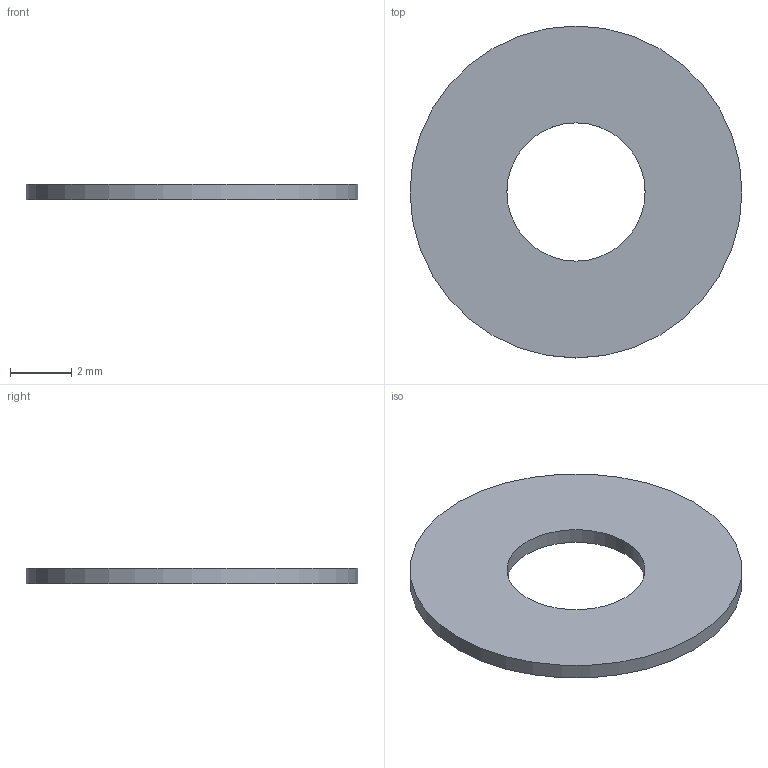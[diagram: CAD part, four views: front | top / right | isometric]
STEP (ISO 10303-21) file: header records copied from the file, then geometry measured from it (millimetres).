
FILE_DESCRIPTION(('Open CASCADE Model'),'2;1');
FILE_NAME('Open CASCADE Shape Model','2026-10-21T12:47:56',('Author'),( 'Open CASCADE'),'Open CASCADE STEP processor 7.9','Open CASCADE 7.9' ,'Unknown');
FILE_SCHEMA(('AUTOMOTIVE_DESIGN { 1 0 10303 214 1 1 1 1 }'));
Length unit declared in the file: millimetre
Products named in the file (1): Open CASCADE STEP translator 7.9 4
Bounding box: 10.8 x 10.8 x 0.5 mm (x, y, z)
Volume: 37.9 mm3; surface area: 175.4 mm2
Topology: 1 solids, 1 shells, 4 faces, 6 edges, 4 vertices
Faces by surface type: cylinder 2, plane 2
Full cylindrical faces by diameter (mm): 4.5 x1, 10.8 x1
Entity records: 186 total; most frequent: DIRECTION 32, CARTESIAN_POINT 27, ORIENTED_EDGE 12, PCURVE 12, DEFINITIONAL_REPRESENTATION 12, LINE 10, VECTOR 10, AXIS2_PLACEMENT_3D 9
